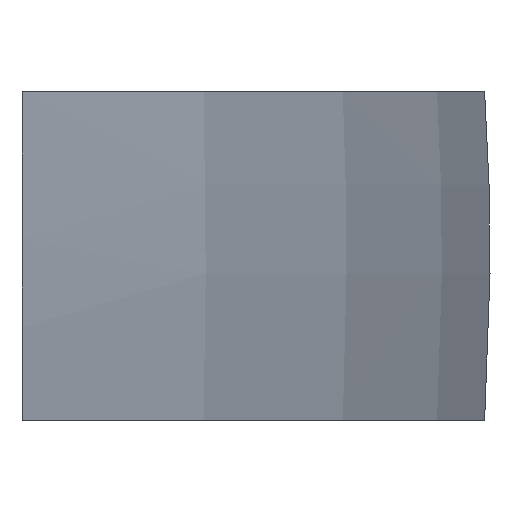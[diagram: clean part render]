
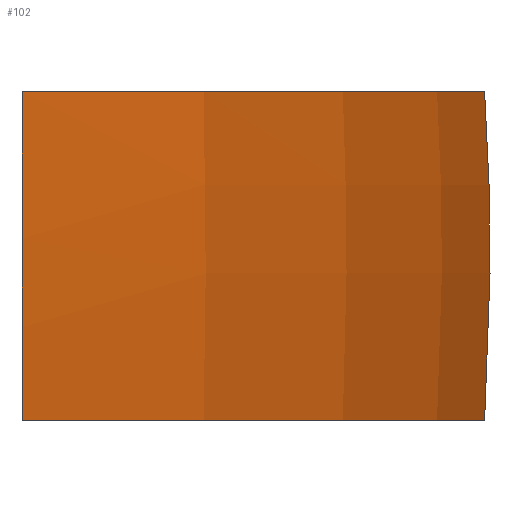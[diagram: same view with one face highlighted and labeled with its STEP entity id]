
A CAD part, left-side view. The second image highlights one B-rep face of the part: STEP entity #102.
In plain terms, the highlighted toroidal (fillet/blend) face has major radius 11.5 mm and minor radius 160 mm.
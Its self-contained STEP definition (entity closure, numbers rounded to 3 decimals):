
#102 = ADVANCED_FACE( '', ( #165 ), #166, .T. );
#165 = FACE_OUTER_BOUND( '', #229, .T. );
#166 = TOROIDAL_SURFACE( '', #230, 11.5, 160. );
#229 = EDGE_LOOP( '', ( #456, #457, #458, #459 ) );
#230 = AXIS2_PLACEMENT_3D( '', #460, #461, #462 );
#456 = ORIENTED_EDGE( '', *, *, #538, .T. );
#457 = ORIENTED_EDGE( '', *, *, #544, .T. );
#458 = ORIENTED_EDGE( '', *, *, #534, .T. );
#459 = ORIENTED_EDGE( '', *, *, #543, .F. );
#460 = CARTESIAN_POINT( '', ( 80., 140.5, 0. ) );
#461 = DIRECTION( '', ( 0., 0., -1. ) );
#462 = DIRECTION( '', ( -1., 0., 0. ) );
#534 = EDGE_CURVE( '', #653, #654, #655, .T. );
#538 = EDGE_CURVE( '', #660, #661, #662, .T. );
#543 = EDGE_CURVE( '', #660, #654, #668, .T. );
#544 = EDGE_CURVE( '', #661, #653, #669, .T. );
#653 = VERTEX_POINT( '', #1416 );
#654 = VERTEX_POINT( '', #1417 );
#655 = B_SPLINE_CURVE_WITH_KNOTS( '', 3, ( #1418, #1419, #1420, #1421, #1422, #1423, #1424, #1425, #1426, #1427 ), .UNSPECIFIED., .F., .F., ( 4, 2, 2, 2, 4 ), ( 132.658, 136.903, 142.837, 148.771, 153.015 ), .UNSPECIFIED. );
#660 = VERTEX_POINT( '', #1495 );
#661 = VERTEX_POINT( '', #1496 );
#662 = B_SPLINE_CURVE_WITH_KNOTS( '', 3, ( #1497, #1498, #1499, #1500, #1501, #1502, #1503, #1504, #1505, #1506 ), .UNSPECIFIED., .F., .F., ( 4, 2, 2, 2, 4 ), ( 418.332, 422.577, 428.511, 434.445, 438.689 ), .UNSPECIFIED. );
#668 = CIRCLE( '', #1575, 171.138 );
#669 = CIRCLE( '', #1576, 171.138 );
#1416 = CARTESIAN_POINT( '', ( -17.714, 0., 10.75 ) );
#1417 = CARTESIAN_POINT( '', ( -17.714, 0., -10.75 ) );
#1418 = CARTESIAN_POINT( '', ( -17.714, 0., 10.75 ) );
#1419 = CARTESIAN_POINT( '', ( -17.896, 0., 9.214 ) );
#1420 = CARTESIAN_POINT( '', ( -18.037, 0., 7.679 ) );
#1421 = CARTESIAN_POINT( '', ( -18.281, 0., 4.051 ) );
#1422 = CARTESIAN_POINT( '', ( -18.346, 0., 1.978 ) );
#1423 = CARTESIAN_POINT( '', ( -18.346, 0., -1.978 ) );
#1424 = CARTESIAN_POINT( '', ( -18.281, 0., -4.051 ) );
#1425 = CARTESIAN_POINT( '', ( -18.037, 0., -7.679 ) );
#1426 = CARTESIAN_POINT( '', ( -17.896, 0., -9.214 ) );
#1427 = CARTESIAN_POINT( '', ( -17.714, 0., -10.75 ) );
#1495 = CARTESIAN_POINT( '', ( 177.714, 0., -10.75 ) );
#1496 = CARTESIAN_POINT( '', ( 177.714, 0., 10.75 ) );
#1497 = CARTESIAN_POINT( '', ( 177.714, 0., -10.75 ) );
#1498 = CARTESIAN_POINT( '', ( 177.896, 0., -9.214 ) );
#1499 = CARTESIAN_POINT( '', ( 178.037, 0., -7.679 ) );
#1500 = CARTESIAN_POINT( '', ( 178.281, 0., -4.051 ) );
#1501 = CARTESIAN_POINT( '', ( 178.346, 0., -1.978 ) );
#1502 = CARTESIAN_POINT( '', ( 178.346, 0., 1.978 ) );
#1503 = CARTESIAN_POINT( '', ( 178.281, 0., 4.051 ) );
#1504 = CARTESIAN_POINT( '', ( 178.037, 0., 7.679 ) );
#1505 = CARTESIAN_POINT( '', ( 177.896, 0., 9.214 ) );
#1506 = CARTESIAN_POINT( '', ( 177.714, 0., 10.75 ) );
#1575 = AXIS2_PLACEMENT_3D( '', #1670, #1671, #1672 );
#1576 = AXIS2_PLACEMENT_3D( '', #1673, #1674, #1675 );
#1670 = CARTESIAN_POINT( '', ( 80., 140.5, -10.75 ) );
#1671 = DIRECTION( '', ( 0., 0., -1. ) );
#1672 = DIRECTION( '', ( 0.574, -0.819, 0. ) );
#1673 = CARTESIAN_POINT( '', ( 80., 140.5, 10.75 ) );
#1674 = DIRECTION( '', ( 0., 0., -1. ) );
#1675 = DIRECTION( '', ( 0.574, -0.819, 0. ) );
